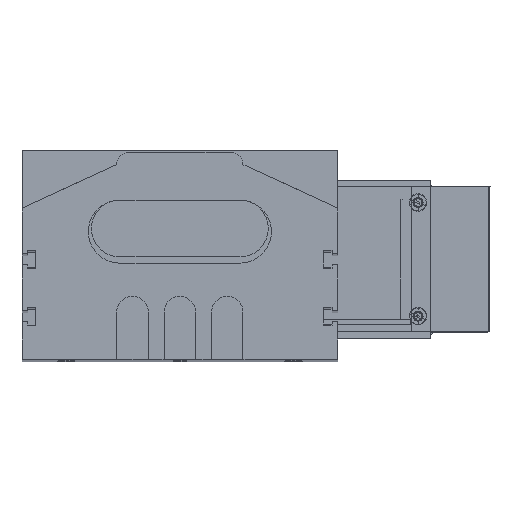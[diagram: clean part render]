
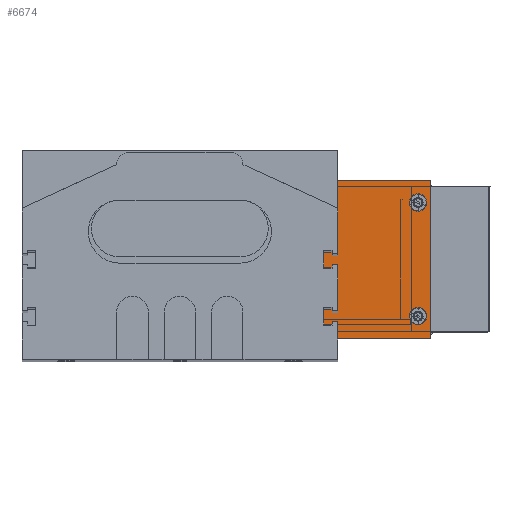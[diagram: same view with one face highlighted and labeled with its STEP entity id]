
A CAD part, top view. The second image highlights one B-rep face of the part: STEP entity #6674.
In plain terms, the highlighted planar face has unit normal (0, 0, 1) as drawn and (0, -1, 0) by its records, which use the part's own axes.
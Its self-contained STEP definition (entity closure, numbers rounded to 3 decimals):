
#6508 = VERTEX_POINT ( 'NONE', #16694 ) ;
#6510 = VERTEX_POINT ( 'NONE', #16692 ) ;
#6553 = VERTEX_POINT ( 'NONE', #16799 ) ;
#6556 = EDGE_CURVE ( 'NONE', #6553, #6575, #16782, .T. ) ;
#6574 = EDGE_CURVE ( 'NONE', #6510, #6508, #16835, .T. ) ;
#6575 = VERTEX_POINT ( 'NONE', #16837 ) ;
#6611 = VERTEX_POINT ( 'NONE', #16913 ) ;
#6627 = VERTEX_POINT ( 'NONE', #16946 ) ;
#6640 = EDGE_CURVE ( 'NONE', #6662, #6645, #16977, .T. ) ;
#6645 = VERTEX_POINT ( 'NONE', #16975 ) ;
#6657 = EDGE_CURVE ( 'NONE', #6645, #6662, #16953, .T. ) ;
#6662 = VERTEX_POINT ( 'NONE', #16988 ) ;
#6664 = EDGE_CURVE ( 'NONE', #6575, #6553, #16986, .T. ) ;
#6671 = VERTEX_POINT ( 'NONE', #17022 ) ;
#6674 = ADVANCED_FACE ( 'NONE', ( #17021, #17018, #17017, #17036, #17015 ), #17011, .F. ) ;
#6676 = ORIENTED_EDGE ( 'NONE', *, *, #6744, .F. ) ;
#6680 = EDGE_CURVE ( 'NONE', #6747, #6754, #17074, .T. ) ;
#6683 = ORIENTED_EDGE ( 'NONE', *, *, #6574, .F. ) ;
#6684 = VERTEX_POINT ( 'NONE', #17016 ) ;
#6685 = ORIENTED_EDGE ( 'NONE', *, *, #6680, .F. ) ;
#6686 = EDGE_CURVE ( 'NONE', #6671, #6747, #17070, .T. ) ;
#6687 = ORIENTED_EDGE ( 'NONE', *, *, #6699, .F. ) ;
#6688 = EDGE_CURVE ( 'NONE', #6754, #6684, #17058, .T. ) ;
#6692 = ORIENTED_EDGE ( 'NONE', *, *, #6688, .F. ) ;
#6694 = ORIENTED_EDGE ( 'NONE', *, *, #6657, .F. ) ;
#6695 = ORIENTED_EDGE ( 'NONE', *, *, #6698, .F. ) ;
#6696 = ORIENTED_EDGE ( 'NONE', *, *, #6556, .F. ) ;
#6697 = EDGE_LOOP ( 'NONE', ( #6695, #6683 ) ) ;
#6698 = EDGE_CURVE ( 'NONE', #6508, #6510, #17116, .T. ) ;
#6699 = EDGE_CURVE ( 'NONE', #6611, #6627, #17059, .T. ) ;
#6701 = EDGE_CURVE ( 'NONE', #6627, #6611, #17114, .T. ) ;
#6735 = ORIENTED_EDGE ( 'NONE', *, *, #6701, .F. ) ;
#6740 = EDGE_LOOP ( 'NONE', ( #6756, #6694 ) ) ;
#6741 = ORIENTED_EDGE ( 'NONE', *, *, #6686, .F. ) ;
#6744 = EDGE_CURVE ( 'NONE', #6684, #6671, #17162, .T. ) ;
#6747 = VERTEX_POINT ( 'NONE', #17156 ) ;
#6748 = ORIENTED_EDGE ( 'NONE', *, *, #6664, .F. ) ;
#6749 = EDGE_LOOP ( 'NONE', ( #6687, #6735 ) ) ;
#6754 = VERTEX_POINT ( 'NONE', #17225 ) ;
#6755 = EDGE_LOOP ( 'NONE', ( #6748, #6696 ) ) ;
#6756 = ORIENTED_EDGE ( 'NONE', *, *, #6640, .F. ) ;
#6761 = EDGE_LOOP ( 'NONE', ( #6685, #6741, #6676, #6692 ) ) ;
#16692 = CARTESIAN_POINT ( 'NONE',  ( -39., -2., -7.25 ) ) ;
#16694 = CARTESIAN_POINT ( 'NONE',  ( -39., -2., -12.75 ) ) ;
#16775 = DIRECTION ( 'NONE',  ( 0., 0., -1. ) ) ;
#16776 = DIRECTION ( 'NONE',  ( 0., -1., 0. ) ) ;
#16782 = CIRCLE ( 'NONE', #16795, 2.75 ) ;
#16789 = CARTESIAN_POINT ( 'NONE',  ( 20.2, -2., -18. ) ) ;
#16795 = AXIS2_PLACEMENT_3D ( 'NONE', #16789, #16776, #16775 ) ;
#16799 = CARTESIAN_POINT ( 'NONE',  ( 20.2, -2., -15.25 ) ) ;
#16831 = DIRECTION ( 'NONE',  ( 0., 0., -1. ) ) ;
#16832 = DIRECTION ( 'NONE',  ( 0., -1., 0. ) ) ;
#16833 = CARTESIAN_POINT ( 'NONE',  ( -39., -2., -10. ) ) ;
#16834 = AXIS2_PLACEMENT_3D ( 'NONE', #16833, #16832, #16831 ) ;
#16835 = CIRCLE ( 'NONE', #16834, 2.75 ) ;
#16837 = CARTESIAN_POINT ( 'NONE',  ( 20.2, -2., -20.75 ) ) ;
#16913 = CARTESIAN_POINT ( 'NONE',  ( -39., -2., 7.25 ) ) ;
#16919 = AXIS2_PLACEMENT_3D ( 'NONE', #16969, #16968, #16967 ) ;
#16946 = CARTESIAN_POINT ( 'NONE',  ( -39., -2., 12.75 ) ) ;
#16952 = CARTESIAN_POINT ( 'NONE',  ( 20.2, -2., 18. ) ) ;
#16953 = CIRCLE ( 'NONE', #16963, 2.75 ) ;
#16963 = AXIS2_PLACEMENT_3D ( 'NONE', #16952, #16991, #16990 ) ;
#16967 = DIRECTION ( 'NONE',  ( 0., 0., -1. ) ) ;
#16968 = DIRECTION ( 'NONE',  ( 0., -1., 0. ) ) ;
#16969 = CARTESIAN_POINT ( 'NONE',  ( 20.2, -2., 18. ) ) ;
#16975 = CARTESIAN_POINT ( 'NONE',  ( 20.2, -2., 20.75 ) ) ;
#16977 = CIRCLE ( 'NONE', #16919, 2.75 ) ;
#16986 = CIRCLE ( 'NONE', #17040, 2.75 ) ;
#16988 = CARTESIAN_POINT ( 'NONE',  ( 20.2, -2., 15.25 ) ) ;
#16990 = DIRECTION ( 'NONE',  ( 0., 0., -1. ) ) ;
#16991 = DIRECTION ( 'NONE',  ( 0., -1., 0. ) ) ;
#16995 = CARTESIAN_POINT ( 'NONE',  ( 20.2, -2., -18. ) ) ;
#17011 = PLANE ( 'NONE',  #17041 ) ;
#17015 = FACE_BOUND ( 'NONE', #6740, .T. ) ;
#17016 = CARTESIAN_POINT ( 'NONE',  ( -42., -2., -25. ) ) ;
#17017 = FACE_BOUND ( 'NONE', #6697, .T. ) ;
#17018 = FACE_BOUND ( 'NONE', #6749, .T. ) ;
#17021 = FACE_OUTER_BOUND ( 'NONE', #6761, .T. ) ;
#17022 = CARTESIAN_POINT ( 'NONE',  ( -42., -2., 25. ) ) ;
#17036 = FACE_BOUND ( 'NONE', #6755, .T. ) ;
#17038 = DIRECTION ( 'NONE',  ( 0., 0., -1. ) ) ;
#17039 = DIRECTION ( 'NONE',  ( 0., -1., 0. ) ) ;
#17040 = AXIS2_PLACEMENT_3D ( 'NONE', #16995, #17039, #17038 ) ;
#17041 = AXIS2_PLACEMENT_3D ( 'NONE', #17078, #17077, #17076 ) ;
#17046 = DIRECTION ( 'NONE',  ( 0., 0., -1. ) ) ;
#17049 = DIRECTION ( 'NONE',  ( 0., -1., 0. ) ) ;
#17050 = AXIS2_PLACEMENT_3D ( 'NONE', #17113, #17112, #17109 ) ;
#17055 = DIRECTION ( 'NONE',  ( -1., 0., 0. ) ) ;
#17056 = VECTOR ( 'NONE', #17055, 1000. ) ;
#17057 = CARTESIAN_POINT ( 'NONE',  ( 37., -2., -25. ) ) ;
#17058 = LINE ( 'NONE', #17057, #17056 ) ;
#17059 = CIRCLE ( 'NONE', #17104, 2.75 ) ;
#17060 = DIRECTION ( 'NONE',  ( 1., 0., 0. ) ) ;
#17061 = VECTOR ( 'NONE', #17060, 1000. ) ;
#17062 = CARTESIAN_POINT ( 'NONE',  ( -37., -2., 25. ) ) ;
#17070 = LINE ( 'NONE', #17062, #17061 ) ;
#17071 = DIRECTION ( 'NONE',  ( 0., 0., -1. ) ) ;
#17072 = VECTOR ( 'NONE', #17071, 1000. ) ;
#17073 = CARTESIAN_POINT ( 'NONE',  ( 24., -2., 25. ) ) ;
#17074 = LINE ( 'NONE', #17073, #17072 ) ;
#17076 = DIRECTION ( 'NONE',  ( 0., 0., 1. ) ) ;
#17077 = DIRECTION ( 'NONE',  ( 0., 1., 0. ) ) ;
#17078 = CARTESIAN_POINT ( 'NONE',  ( 37., -2., -25. ) ) ;
#17101 = DIRECTION ( 'NONE',  ( 0., 0., -1. ) ) ;
#17102 = DIRECTION ( 'NONE',  ( 0., -1., 0. ) ) ;
#17104 = AXIS2_PLACEMENT_3D ( 'NONE', #17115, #17049, #17046 ) ;
#17105 = AXIS2_PLACEMENT_3D ( 'NONE', #17107, #17102, #17101 ) ;
#17107 = CARTESIAN_POINT ( 'NONE',  ( -39., -2., 10. ) ) ;
#17109 = DIRECTION ( 'NONE',  ( 0., 0., -1. ) ) ;
#17112 = DIRECTION ( 'NONE',  ( 0., -1., 0. ) ) ;
#17113 = CARTESIAN_POINT ( 'NONE',  ( -39., -2., -10. ) ) ;
#17114 = CIRCLE ( 'NONE', #17105, 2.75 ) ;
#17115 = CARTESIAN_POINT ( 'NONE',  ( -39., -2., 10. ) ) ;
#17116 = CIRCLE ( 'NONE', #17050, 2.75 ) ;
#17156 = CARTESIAN_POINT ( 'NONE',  ( 24., -2., 25. ) ) ;
#17157 = DIRECTION ( 'NONE',  ( 0., 0., 1. ) ) ;
#17161 = CARTESIAN_POINT ( 'NONE',  ( -42., -2., -25. ) ) ;
#17162 = LINE ( 'NONE', #17161, #17182 ) ;
#17182 = VECTOR ( 'NONE', #17157, 1000. ) ;
#17225 = CARTESIAN_POINT ( 'NONE',  ( 24., -2., -25. ) ) ;
